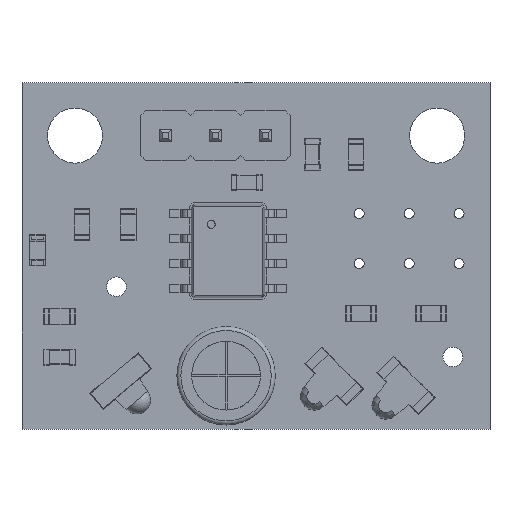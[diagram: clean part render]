
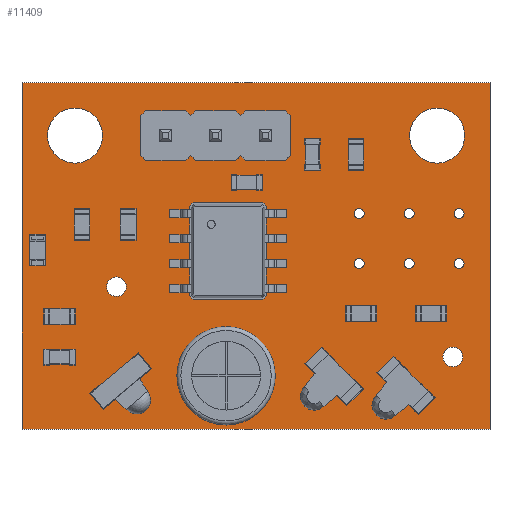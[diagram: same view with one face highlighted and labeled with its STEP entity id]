
A CAD part, top view. The second image highlights one B-rep face of the part: STEP entity #11409.
In plain terms, the highlighted planar face has unit normal (0, 0, 1).
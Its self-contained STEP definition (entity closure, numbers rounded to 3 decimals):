
#207=FACE_BOUND('',#1429,.T.);
#208=FACE_BOUND('',#1430,.T.);
#209=FACE_BOUND('',#1431,.T.);
#210=FACE_BOUND('',#1432,.T.);
#211=FACE_BOUND('',#1433,.T.);
#212=FACE_BOUND('',#1434,.T.);
#213=FACE_BOUND('',#1435,.T.);
#214=FACE_BOUND('',#1436,.T.);
#215=FACE_BOUND('',#1437,.T.);
#216=FACE_BOUND('',#1438,.T.);
#217=FACE_BOUND('',#1439,.T.);
#218=FACE_BOUND('',#1440,.T.);
#219=FACE_BOUND('',#1441,.T.);
#220=FACE_BOUND('',#1442,.T.);
#221=FACE_BOUND('',#1443,.T.);
#774=FACE_OUTER_BOUND('',#1428,.T.);
#1428=EDGE_LOOP('',(#9294,#9295,#9296,#9297));
#1429=EDGE_LOOP('',(#9298));
#1430=EDGE_LOOP('',(#9299));
#1431=EDGE_LOOP('',(#9300));
#1432=EDGE_LOOP('',(#9301));
#1433=EDGE_LOOP('',(#9302));
#1434=EDGE_LOOP('',(#9303));
#1435=EDGE_LOOP('',(#9304));
#1436=EDGE_LOOP('',(#9305));
#1437=EDGE_LOOP('',(#9306));
#1438=EDGE_LOOP('',(#9307));
#1439=EDGE_LOOP('',(#9308));
#1440=EDGE_LOOP('',(#9309));
#1441=EDGE_LOOP('',(#9310));
#1442=EDGE_LOOP('',(#9311));
#1443=EDGE_LOOP('',(#9312));
#1777=CIRCLE('',#12353,0.5);
#1778=CIRCLE('',#12354,0.254);
#1779=CIRCLE('',#12355,0.254);
#1780=CIRCLE('',#12356,0.254);
#1781=CIRCLE('',#12357,0.406);
#1782=CIRCLE('',#12358,0.406);
#1783=CIRCLE('',#12359,0.5);
#1784=CIRCLE('',#12360,0.254);
#1785=CIRCLE('',#12361,0.254);
#1786=CIRCLE('',#12362,0.254);
#1787=CIRCLE('',#12363,1.4);
#1788=CIRCLE('',#12364,0.508);
#1789=CIRCLE('',#12365,0.508);
#1790=CIRCLE('',#12366,0.508);
#1791=CIRCLE('',#12367,1.4);
#2799=LINE('',#18088,#4126);
#2803=LINE('',#18096,#4130);
#2805=LINE('',#18100,#4132);
#2809=LINE('',#18137,#4136);
#4126=VECTOR('',#14794,1.);
#4130=VECTOR('',#14800,1.);
#4132=VECTOR('',#14804,1.);
#4136=VECTOR('',#14842,1.);
#5207=VERTEX_POINT('',#18085);
#5208=VERTEX_POINT('',#18087);
#5211=VERTEX_POINT('',#18094);
#5212=VERTEX_POINT('',#18099);
#5229=VERTEX_POINT('',#18138);
#5230=VERTEX_POINT('',#18140);
#5231=VERTEX_POINT('',#18142);
#5232=VERTEX_POINT('',#18144);
#5233=VERTEX_POINT('',#18146);
#5234=VERTEX_POINT('',#18148);
#5235=VERTEX_POINT('',#18150);
#5236=VERTEX_POINT('',#18152);
#5237=VERTEX_POINT('',#18154);
#5238=VERTEX_POINT('',#18156);
#5239=VERTEX_POINT('',#18158);
#5240=VERTEX_POINT('',#18160);
#5241=VERTEX_POINT('',#18162);
#5242=VERTEX_POINT('',#18164);
#5243=VERTEX_POINT('',#18166);
#6607=EDGE_CURVE('',#5207,#5208,#2799,.T.);
#6611=EDGE_CURVE('',#5211,#5207,#2803,.T.);
#6613=EDGE_CURVE('',#5208,#5212,#2805,.T.);
#6632=EDGE_CURVE('',#5212,#5211,#2809,.T.);
#6633=EDGE_CURVE('',#5229,#5229,#1777,.T.);
#6634=EDGE_CURVE('',#5230,#5230,#1778,.T.);
#6635=EDGE_CURVE('',#5231,#5231,#1779,.T.);
#6636=EDGE_CURVE('',#5232,#5232,#1780,.T.);
#6637=EDGE_CURVE('',#5233,#5233,#1781,.T.);
#6638=EDGE_CURVE('',#5234,#5234,#1782,.T.);
#6639=EDGE_CURVE('',#5235,#5235,#1783,.T.);
#6640=EDGE_CURVE('',#5236,#5236,#1784,.T.);
#6641=EDGE_CURVE('',#5237,#5237,#1785,.T.);
#6642=EDGE_CURVE('',#5238,#5238,#1786,.T.);
#6643=EDGE_CURVE('',#5239,#5239,#1787,.T.);
#6644=EDGE_CURVE('',#5240,#5240,#1788,.T.);
#6645=EDGE_CURVE('',#5241,#5241,#1789,.T.);
#6646=EDGE_CURVE('',#5242,#5242,#1790,.T.);
#6647=EDGE_CURVE('',#5243,#5243,#1791,.T.);
#9294=ORIENTED_EDGE('',*,*,#6607,.F.);
#9295=ORIENTED_EDGE('',*,*,#6611,.F.);
#9296=ORIENTED_EDGE('',*,*,#6632,.F.);
#9297=ORIENTED_EDGE('',*,*,#6613,.F.);
#9298=ORIENTED_EDGE('',*,*,#6633,.F.);
#9299=ORIENTED_EDGE('',*,*,#6634,.F.);
#9300=ORIENTED_EDGE('',*,*,#6635,.F.);
#9301=ORIENTED_EDGE('',*,*,#6636,.F.);
#9302=ORIENTED_EDGE('',*,*,#6637,.F.);
#9303=ORIENTED_EDGE('',*,*,#6638,.F.);
#9304=ORIENTED_EDGE('',*,*,#6639,.F.);
#9305=ORIENTED_EDGE('',*,*,#6640,.F.);
#9306=ORIENTED_EDGE('',*,*,#6641,.F.);
#9307=ORIENTED_EDGE('',*,*,#6642,.F.);
#9308=ORIENTED_EDGE('',*,*,#6643,.F.);
#9309=ORIENTED_EDGE('',*,*,#6644,.F.);
#9310=ORIENTED_EDGE('',*,*,#6645,.F.);
#9311=ORIENTED_EDGE('',*,*,#6646,.F.);
#9312=ORIENTED_EDGE('',*,*,#6647,.F.);
#10558=PLANE('',#12352);
#11409=ADVANCED_FACE('',(#774,#207,#208,#209,#210,#211,#212,#213,#214,#215,
#216,#217,#218,#219,#220,#221),#10558,.F.);
#12352=AXIS2_PLACEMENT_3D('',#18136,#14840,#14841);
#12353=AXIS2_PLACEMENT_3D('',#18139,#14843,#14844);
#12354=AXIS2_PLACEMENT_3D('',#18141,#14845,#14846);
#12355=AXIS2_PLACEMENT_3D('',#18143,#14847,#14848);
#12356=AXIS2_PLACEMENT_3D('',#18145,#14849,#14850);
#12357=AXIS2_PLACEMENT_3D('',#18147,#14851,#14852);
#12358=AXIS2_PLACEMENT_3D('',#18149,#14853,#14854);
#12359=AXIS2_PLACEMENT_3D('',#18151,#14855,#14856);
#12360=AXIS2_PLACEMENT_3D('',#18153,#14857,#14858);
#12361=AXIS2_PLACEMENT_3D('',#18155,#14859,#14860);
#12362=AXIS2_PLACEMENT_3D('',#18157,#14861,#14862);
#12363=AXIS2_PLACEMENT_3D('',#18159,#14863,#14864);
#12364=AXIS2_PLACEMENT_3D('',#18161,#14865,#14866);
#12365=AXIS2_PLACEMENT_3D('',#18163,#14867,#14868);
#12366=AXIS2_PLACEMENT_3D('',#18165,#14869,#14870);
#12367=AXIS2_PLACEMENT_3D('',#18167,#14871,#14872);
#14794=DIRECTION('',(-1.,0.,0.));
#14800=DIRECTION('',(0.,-1.,0.));
#14804=DIRECTION('',(0.,1.,0.));
#14840=DIRECTION('center_axis',(0.,0.,-1.));
#14841=DIRECTION('ref_axis',(-1.,0.,0.));
#14842=DIRECTION('',(1.,0.,0.));
#14843=DIRECTION('center_axis',(0.,0.,1.));
#14844=DIRECTION('ref_axis',(1.,0.,0.));
#14845=DIRECTION('center_axis',(0.,0.,1.));
#14846=DIRECTION('ref_axis',(1.,0.,0.));
#14847=DIRECTION('center_axis',(0.,0.,1.));
#14848=DIRECTION('ref_axis',(1.,0.,0.));
#14849=DIRECTION('center_axis',(0.,0.,1.));
#14850=DIRECTION('ref_axis',(1.,0.,0.));
#14851=DIRECTION('center_axis',(0.,0.,1.));
#14852=DIRECTION('ref_axis',(1.,0.,0.));
#14853=DIRECTION('center_axis',(0.,0.,1.));
#14854=DIRECTION('ref_axis',(1.,0.,0.));
#14855=DIRECTION('center_axis',(0.,0.,1.));
#14856=DIRECTION('ref_axis',(1.,0.,0.));
#14857=DIRECTION('center_axis',(0.,0.,1.));
#14858=DIRECTION('ref_axis',(1.,0.,0.));
#14859=DIRECTION('center_axis',(0.,0.,1.));
#14860=DIRECTION('ref_axis',(1.,0.,0.));
#14861=DIRECTION('center_axis',(0.,0.,1.));
#14862=DIRECTION('ref_axis',(1.,0.,0.));
#14863=DIRECTION('center_axis',(0.,0.,1.));
#14864=DIRECTION('ref_axis',(1.,0.,0.));
#14865=DIRECTION('center_axis',(0.,0.,1.));
#14866=DIRECTION('ref_axis',(1.,0.,0.));
#14867=DIRECTION('center_axis',(0.,0.,1.));
#14868=DIRECTION('ref_axis',(1.,0.,0.));
#14869=DIRECTION('center_axis',(0.,0.,1.));
#14870=DIRECTION('ref_axis',(1.,0.,0.));
#14871=DIRECTION('center_axis',(0.,0.,1.));
#14872=DIRECTION('ref_axis',(1.,0.,0.));
#18085=CARTESIAN_POINT('',(160.397,-113.804,1.07));
#18087=CARTESIAN_POINT('',(136.597,-113.804,1.07));
#18088=CARTESIAN_POINT('',(160.397,-113.804,1.07));
#18094=CARTESIAN_POINT('',(160.397,-96.204,1.07));
#18096=CARTESIAN_POINT('',(160.397,-96.204,1.07));
#18099=CARTESIAN_POINT('',(136.597,-96.204,1.07));
#18100=CARTESIAN_POINT('',(136.597,-113.804,1.07));
#18136=CARTESIAN_POINT('Origin',(148.497,-105.004,1.07));
#18137=CARTESIAN_POINT('',(136.597,-96.204,1.07));
#18138=CARTESIAN_POINT('',(158.005,-110.135,1.07));
#18139=CARTESIAN_POINT('Origin',(158.505,-110.135,1.07));
#18140=CARTESIAN_POINT('',(158.568,-105.39,1.07));
#18141=CARTESIAN_POINT('Origin',(158.822,-105.39,1.07));
#18142=CARTESIAN_POINT('',(156.028,-105.39,1.07));
#18143=CARTESIAN_POINT('Origin',(156.282,-105.39,1.07));
#18144=CARTESIAN_POINT('',(153.488,-105.39,1.07));
#18145=CARTESIAN_POINT('Origin',(153.742,-105.39,1.07));
#18146=CARTESIAN_POINT('',(146.568,-112.12,1.07));
#18147=CARTESIAN_POINT('Origin',(146.975,-112.12,1.07));
#18148=CARTESIAN_POINT('',(146.568,-110.088,1.07));
#18149=CARTESIAN_POINT('Origin',(146.975,-110.088,1.07));
#18150=CARTESIAN_POINT('',(140.898,-106.565,1.07));
#18151=CARTESIAN_POINT('Origin',(141.398,-106.565,1.07));
#18152=CARTESIAN_POINT('',(158.568,-102.85,1.07));
#18153=CARTESIAN_POINT('Origin',(158.822,-102.85,1.07));
#18154=CARTESIAN_POINT('',(156.028,-102.85,1.07));
#18155=CARTESIAN_POINT('Origin',(156.282,-102.85,1.07));
#18156=CARTESIAN_POINT('',(153.488,-102.85,1.07));
#18157=CARTESIAN_POINT('Origin',(153.742,-102.85,1.07));
#18158=CARTESIAN_POINT('',(156.311,-98.881,1.07));
#18159=CARTESIAN_POINT('Origin',(157.711,-98.881,1.07));
#18160=CARTESIAN_POINT('',(148.472,-98.881,1.07));
#18161=CARTESIAN_POINT('Origin',(148.98,-98.881,1.07));
#18162=CARTESIAN_POINT('',(145.932,-98.881,1.07));
#18163=CARTESIAN_POINT('Origin',(146.44,-98.881,1.07));
#18164=CARTESIAN_POINT('',(143.392,-98.881,1.07));
#18165=CARTESIAN_POINT('Origin',(143.9,-98.881,1.07));
#18166=CARTESIAN_POINT('',(137.896,-98.881,1.07));
#18167=CARTESIAN_POINT('Origin',(139.296,-98.881,1.07));
